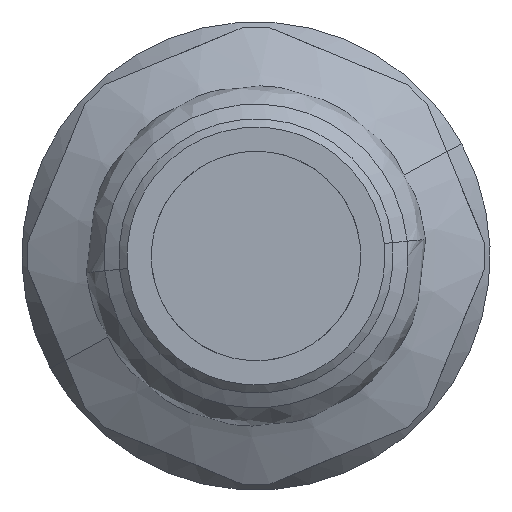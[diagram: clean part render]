
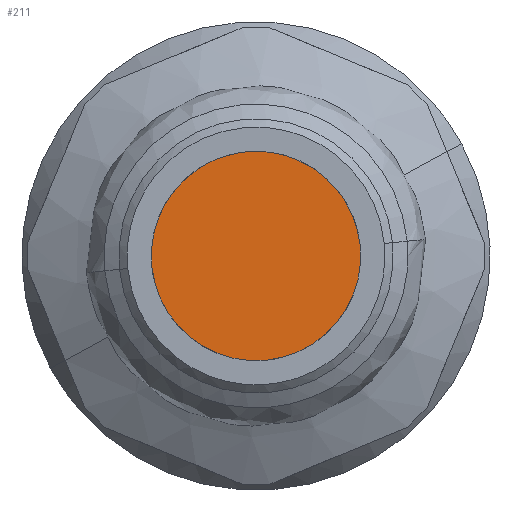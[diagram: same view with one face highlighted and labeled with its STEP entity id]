
A CAD part, left-side view. The second image highlights one B-rep face of the part: STEP entity #211.
In plain terms, the highlighted free-form (B-spline) face has degree [1, 1] with [2, 2] control points.
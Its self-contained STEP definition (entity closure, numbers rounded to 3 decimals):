
#211=ADVANCED_FACE('',(#424),#425,.T.);
#424=FACE_OUTER_BOUND('',#1162,.T.);
#425=B_SPLINE_SURFACE_WITH_KNOTS('',1,1,((#1163,#1164),(#1165,#1166)),.UNSPECIFIED.,.F.,.F.,.F.,(2,2),(2,2),(0.0,12.6),(0.0,12.6),.UNSPECIFIED.);
#1162=EDGE_LOOP('',(#1696,#1697,#1698));
#1163=CARTESIAN_POINT('',(0.,-6.3,-6.3));
#1164=CARTESIAN_POINT('',(0.,6.3,-6.3));
#1165=CARTESIAN_POINT('',(0.,-6.3,6.3));
#1166=CARTESIAN_POINT('',(0.,6.3,6.3));
#1696=ORIENTED_EDGE('',*,*,#1989,.T.);
#1697=ORIENTED_EDGE('',*,*,#1785,.T.);
#1698=ORIENTED_EDGE('',*,*,#1990,.T.);
#1785=EDGE_CURVE('',#2048,#2045,#2049,.T.);
#1989=EDGE_CURVE('',#2342,#2048,#2343,.T.);
#1990=EDGE_CURVE('',#2045,#2342,#2344,.T.);
#2045=VERTEX_POINT('',#2540);
#2048=VERTEX_POINT('',#2544);
#2049=(B_SPLINE_CURVE(2,(#2546,#2547,#2548,#2549,#2550),.UNSPECIFIED.,.F.,.F.)B_SPLINE_CURVE_WITH_KNOTS((3,2,3),(-1.571,0.,1.571),.UNSPECIFIED.)RATIONAL_B_SPLINE_CURVE((1.0,0.707,1.0,0.707,1.0))BOUNDED_CURVE()REPRESENTATION_ITEM('')GEOMETRIC_REPRESENTATION_ITEM()CURVE());
#2342=VERTEX_POINT('',#3470);
#2343=(B_SPLINE_CURVE(2,(#3472,#3473,#3474),.UNSPECIFIED.,.F.,.F.)B_SPLINE_CURVE_WITH_KNOTS((3,3),(-3.142,-1.571),.UNSPECIFIED.)RATIONAL_B_SPLINE_CURVE((1.0,0.707,1.0))BOUNDED_CURVE()REPRESENTATION_ITEM('')GEOMETRIC_REPRESENTATION_ITEM()CURVE());
#2344=(B_SPLINE_CURVE(2,(#3482,#3483,#3484),.UNSPECIFIED.,.F.,.F.)B_SPLINE_CURVE_WITH_KNOTS((3,3),(1.571,3.142),.UNSPECIFIED.)RATIONAL_B_SPLINE_CURVE((1.0,0.707,1.0))BOUNDED_CURVE()REPRESENTATION_ITEM('')GEOMETRIC_REPRESENTATION_ITEM()CURVE());
#2540=CARTESIAN_POINT('',(0.,6.27,-0.614));
#2544=CARTESIAN_POINT('',(0.,-6.27,0.614));
#2546=CARTESIAN_POINT('',(0.,-6.27,0.614));
#2547=CARTESIAN_POINT('',(0.,-5.656,6.884));
#2548=CARTESIAN_POINT('',(0.,0.614,6.27));
#2549=CARTESIAN_POINT('',(0.,6.884,5.656));
#2550=CARTESIAN_POINT('',(0.,6.27,-0.614));
#3470=CARTESIAN_POINT('',(0.,-0.614,-6.27));
#3472=CARTESIAN_POINT('',(0.,-0.614,-6.27));
#3473=CARTESIAN_POINT('',(0.,-6.884,-5.656));
#3474=CARTESIAN_POINT('',(0.,-6.27,0.614));
#3482=CARTESIAN_POINT('',(0.,6.27,-0.614));
#3483=CARTESIAN_POINT('',(0.,5.656,-6.884));
#3484=CARTESIAN_POINT('',(0.,-0.614,-6.27));
